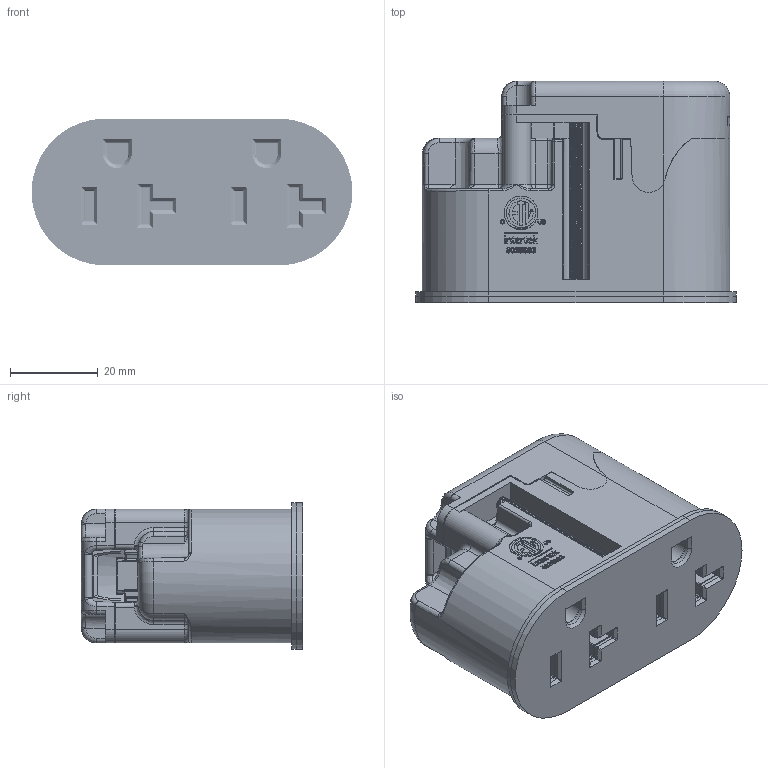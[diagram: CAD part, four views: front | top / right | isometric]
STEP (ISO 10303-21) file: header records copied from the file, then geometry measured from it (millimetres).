
FILE_DESCRIPTION((''),'2;1');
FILE_NAME('A1560884_ASM','2026-07-07T15:24:50',('FDR'),(''),'CREO PARAMETRIC BY PTC INC, 2023494','CREO PARAMETRIC BY PTC INC, 2023494','');
FILE_SCHEMA(('AP242_MANAGED_MODEL_BASED_3D_ENGINEERING_MIM_LF { 1 0 10303 442 1 1 4 }'));
Length unit declared in the file: millimetre
Products named in the file (5): A1560889; A1400703; A1450278; A1560890; A1560884_ASM
Assembly tree (5 placements, depth 2):
  A1560884_ASM
    A1560889
    A1400703  x2
    A1450278
    A1560890
Bounding box: 73 x 50.4 x 33.4 mm (x, y, z)
Volume: 71998.3 mm3; surface area: 28675 mm2
Topology: 5 solids, 6 shells, 2945 faces, 10064 edges, 7389 vertices
Faces by surface type: plane 912, cylinder 762, extrusion 673, bspline 325, torus 135, sphere 85, cone 53
Entity records: 181222 total; most frequent: CARTESIAN_POINT 59121, ORIENTED_EDGE 13557, PRESENTATION_STYLE_ASSIGNMENT 12644, STYLED_ITEM 11886, DIRECTION 11299, CURVE_STYLE 10030, EDGE_CURVE 6784, VECTOR 5305
